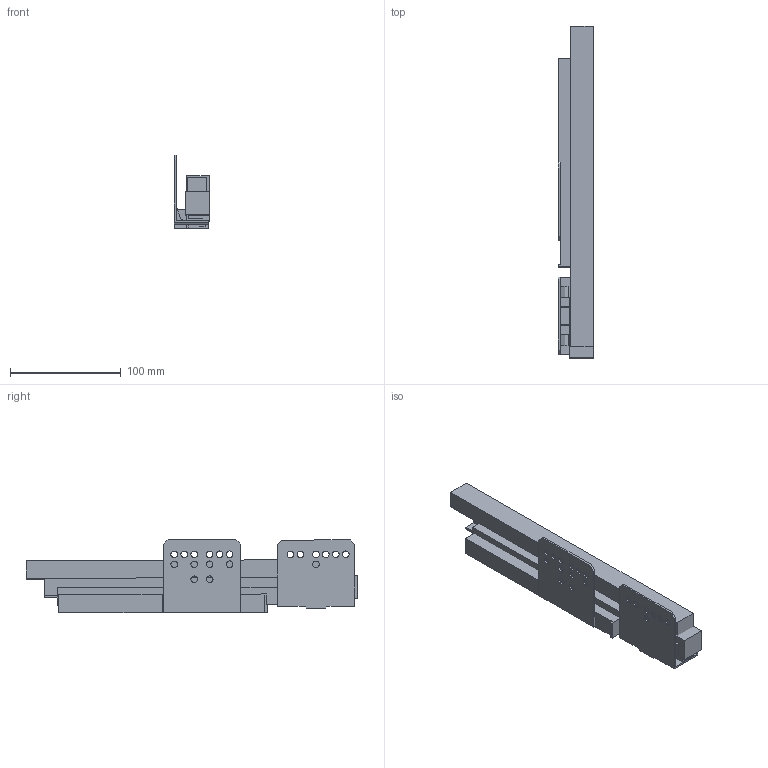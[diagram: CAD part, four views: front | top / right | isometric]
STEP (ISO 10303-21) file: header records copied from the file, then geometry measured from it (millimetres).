
FILE_DESCRIPTION (( 'STEP AP214' ), '1' );
FILE_NAME ('_IMOS Dynamic-XP VA 40kg NL300 LI.step', '2010-07-07T08:05:57', ( 'grass' ), ( '' ), 'SwSTEP 2.0', 'SolidWorks 2010', '' );
FILE_SCHEMA (( 'AUTOMOTIVE_DESIGN' ));
Length unit declared in the file: millimetre
Products named in the file (1): _IMOS Dynamic-XP VA 40kg NL300 LI
Bounding box: 32.04 x 299.89 x 66.67 mm (x, y, z)
Volume: 310661.1 mm3; surface area: 116095.5 mm2
Topology: 7 solids, 7 shells, 151 faces, 411 edges, 274 vertices
Faces by surface type: plane 111, cylinder 40
Entity records: 4913 total; most frequent: CARTESIAN_POINT 837, ORIENTED_EDGE 822, DIRECTION 795, EDGE_CURVE 411, VECTOR 331, LINE 331, VERTEX_POINT 274, AXIS2_PLACEMENT_3D 232
